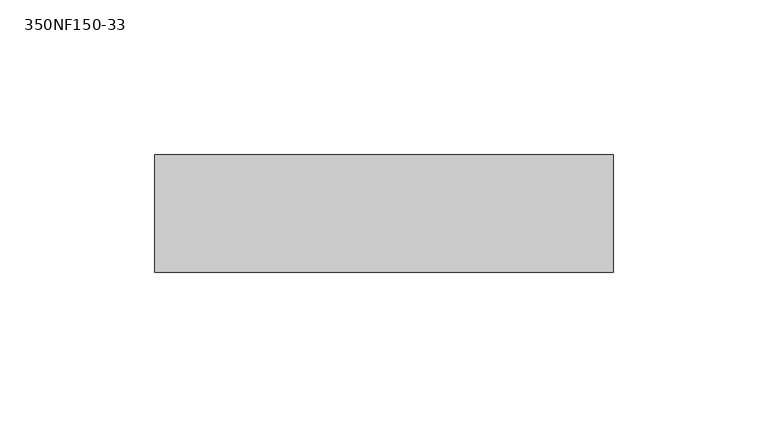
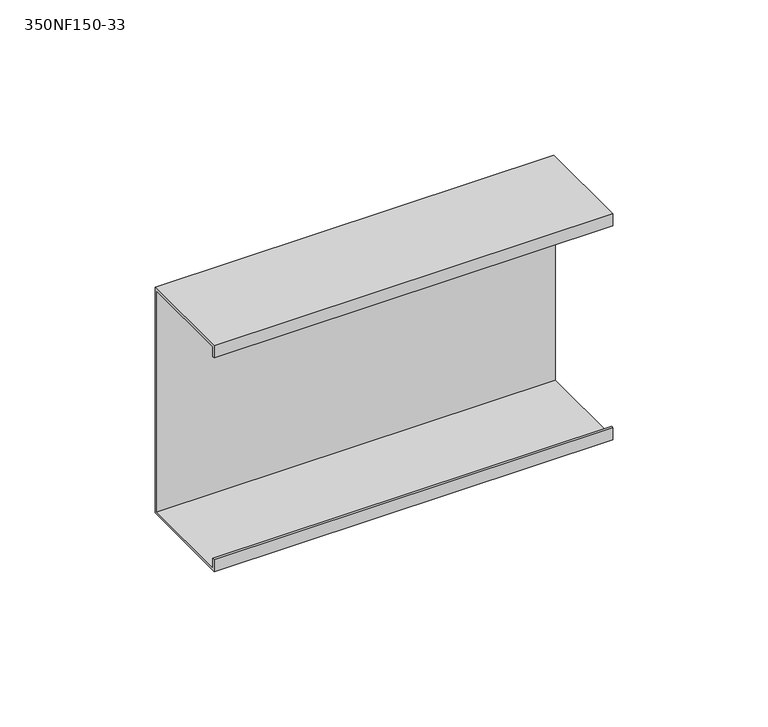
"""IFC4 building model written with IfcOpenShell, lengths in millimetres: beam geometry, BIMSF-SSMA-S : 350NF150-33."""

from ifc_helpers import new_model, si_unit, frame, origin, place, context, project, spatial, polyline, outline, extrude, source, transform, mapped, element, save


def beam_350nf150_33_fdf4906e(model_context):
    return source(origin(), model_context, "Body", "SweptSolid", [
        extrude(outline(polyline([(19.05, 44.45), (19.05, -44.45), (-19.05, -44.45), (-19.05, -39.6748), (-18.1676842, -39.6748), (-18.1676842, -43.5676842), (18.1676842, -43.5676842), (18.1676842, 43.5676842), (-18.1676842, 43.5676842), (-18.1676842, 39.6748), (-19.05, 39.6748), (-19.05, 44.45), (19.05, 44.45)])), frame((-74.2261337, 0.0, 0.0), z_axis=(1.0, 0.0, 0.0), x_axis=(0.0, 1.0, 0.0)), (0.0, 0.0, 1.0), 148.4522674),
    ])


if __name__ == "__main__":
    model = new_model("IFC4")
    model_context = context("Model", 3, world=origin())
    ifc_project = project(units=[si_unit("LENGTHUNIT", "METRE", prefix="MILLI")], contexts=[model_context])
    site = spatial("IfcSite", under=ifc_project)
    building = spatial("IfcBuilding", under=site)
    placement = place(None, origin())
    beam_350nf150_33_shape = beam_350nf150_33_fdf4906e(model_context)
    element("IfcBeam", 1, ObjectType="BIMSF-SSMA-S : 350NF150-33", at=placement, inside=building, context=model_context, shape_type="MappedRepresentation", body=[
        mapped(beam_350nf150_33_shape, transform((0.0, 0.0, 0.0), x_axis=(1.0, 0.0, 0.0), y_axis=(0.0, 1.0, 0.0), z_axis=(0.0, 0.0, 1.0))),
    ])
    save(model, "model.ifc")
